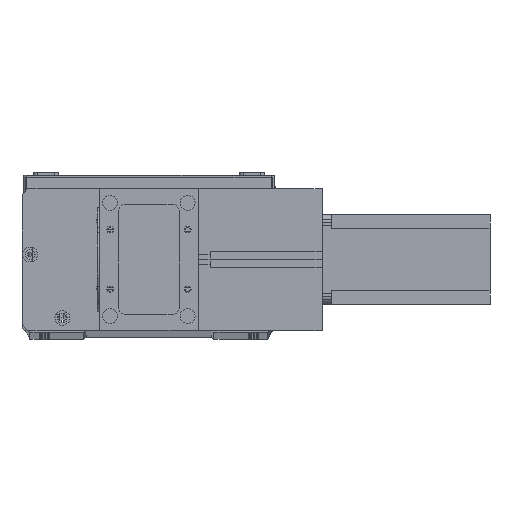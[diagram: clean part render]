
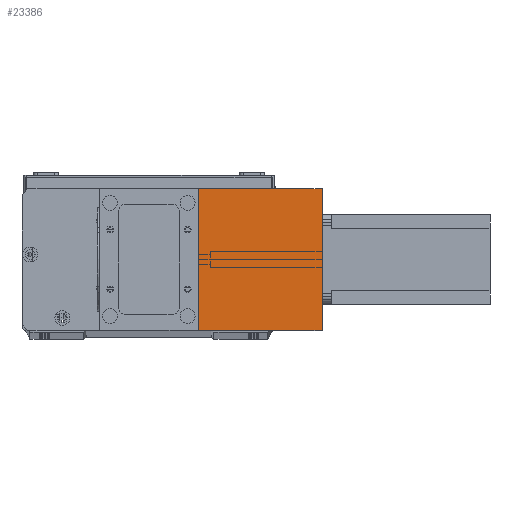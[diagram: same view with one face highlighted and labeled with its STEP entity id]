
A CAD part, top view. The second image highlights one B-rep face of the part: STEP entity #23386.
In plain terms, the highlighted planar face has unit normal (0, 0, 1) as drawn and (1, 0, 0) by its records, which use the part's own axes.
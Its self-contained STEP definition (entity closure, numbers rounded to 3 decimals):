
#722 = FACE_OUTER_BOUND ( 'NONE', #2373, .T. ) ;
#1664 = DIRECTION ( 'NONE',  ( -1., 0., 0. ) ) ;
#2373 = EDGE_LOOP ( 'NONE', ( #23433, #9649, #8863, #15300 ) ) ;
#2786 = EDGE_CURVE ( 'NONE', #19559, #31170, #26962, .T. ) ;
#4206 = CARTESIAN_POINT ( 'NONE',  ( 82., 95., 83. ) ) ;
#4654 = CARTESIAN_POINT ( 'NONE',  ( 82., 95., 0. ) ) ;
#7833 = CARTESIAN_POINT ( 'NONE',  ( 82., 0., 0. ) ) ;
#8863 = ORIENTED_EDGE ( 'NONE', *, *, #27820, .F. ) ;
#8892 = LINE ( 'NONE', #4206, #20924 ) ;
#9631 = EDGE_CURVE ( 'NONE', #18702, #25424, #8892, .T. ) ;
#9649 = ORIENTED_EDGE ( 'NONE', *, *, #9631, .F. ) ;
#10498 = VECTOR ( 'NONE', #17196, 1000. ) ;
#13797 = VECTOR ( 'NONE', #17472, 1000. ) ;
#14344 = VECTOR ( 'NONE', #15819, 1000. ) ;
#15300 = ORIENTED_EDGE ( 'NONE', *, *, #2786, .T. ) ;
#15819 = DIRECTION ( 'NONE',  ( 0., 0., -1. ) ) ;
#16019 = CARTESIAN_POINT ( 'NONE',  ( 82., 0., 83. ) ) ;
#16333 = PLANE ( 'NONE',  #27046 ) ;
#17196 = DIRECTION ( 'NONE',  ( 0., 1., 0. ) ) ;
#17472 = DIRECTION ( 'NONE',  ( 0., 1., 0. ) ) ;
#17672 = LINE ( 'NONE', #19631, #10498 ) ;
#18140 = EDGE_CURVE ( 'NONE', #31170, #25424, #20174, .T. ) ;
#18702 = VERTEX_POINT ( 'NONE', #25863 ) ;
#18760 = DIRECTION ( 'NONE',  ( 0., 0., 1. ) ) ;
#18900 = DIRECTION ( 'NONE',  ( 0., 0., -1. ) ) ;
#19559 = VERTEX_POINT ( 'NONE', #29385 ) ;
#19631 = CARTESIAN_POINT ( 'NONE',  ( 82., 0., 83. ) ) ;
#20174 = LINE ( 'NONE', #7833, #13797 ) ;
#20924 = VECTOR ( 'NONE', #18900, 1000. ) ;
#23386 = ADVANCED_FACE ( 'NONE', ( #722 ), #16333, .F. ) ;
#23433 = ORIENTED_EDGE ( 'NONE', *, *, #18140, .T. ) ;
#25424 = VERTEX_POINT ( 'NONE', #4654 ) ;
#25702 = CARTESIAN_POINT ( 'NONE',  ( 82., 0., 0. ) ) ;
#25863 = CARTESIAN_POINT ( 'NONE',  ( 82., 95., 83. ) ) ;
#26962 = LINE ( 'NONE', #16019, #14344 ) ;
#27046 = AXIS2_PLACEMENT_3D ( 'NONE', #30441, #1664, #18760 ) ;
#27820 = EDGE_CURVE ( 'NONE', #19559, #18702, #17672, .T. ) ;
#29385 = CARTESIAN_POINT ( 'NONE',  ( 82., 0., 83. ) ) ;
#30441 = CARTESIAN_POINT ( 'NONE',  ( 82., 0., 83. ) ) ;
#31170 = VERTEX_POINT ( 'NONE', #25702 ) ;
